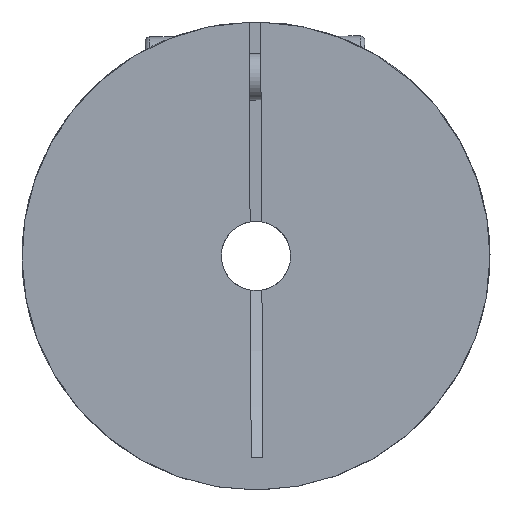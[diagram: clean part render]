
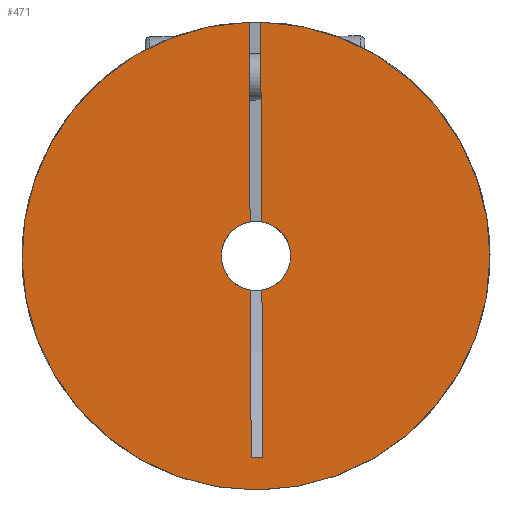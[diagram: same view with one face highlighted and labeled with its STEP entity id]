
A CAD part, left-side view. The second image highlights one B-rep face of the part: STEP entity #471.
In plain terms, the highlighted planar face has unit normal (-1, 0, 0) as drawn and (1, 0, 0) by its records, which use the part's own axes.
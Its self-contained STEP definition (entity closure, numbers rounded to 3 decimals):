
#471 = ADVANCED_FACE( '', ( #1034 ), #1035, .T. );
#1034 = FACE_OUTER_BOUND( '', #1745, .T. );
#1035 = PLANE( '', #1746 );
#1745 = EDGE_LOOP( '', ( #2780, #2781, #2782, #2783, #2784, #2785, #2786, #2787 ) );
#1746 = AXIS2_PLACEMENT_3D( '', #2788, #2789, #2790 );
#2780 = ORIENTED_EDGE( '', *, *, #3957, .F. );
#2781 = ORIENTED_EDGE( '', *, *, #3801, .F. );
#2782 = ORIENTED_EDGE( '', *, *, #3958, .T. );
#2783 = ORIENTED_EDGE( '', *, *, #3766, .T. );
#2784 = ORIENTED_EDGE( '', *, *, #3749, .T. );
#2785 = ORIENTED_EDGE( '', *, *, #3727, .T. );
#2786 = ORIENTED_EDGE( '', *, *, #3959, .F. );
#2787 = ORIENTED_EDGE( '', *, *, #3764, .T. );
#2788 = CARTESIAN_POINT( '', ( 21., 0., 20.25 ) );
#2789 = DIRECTION( '', ( 1., 0., 0. ) );
#2790 = DIRECTION( '', ( 0., 0., -1. ) );
#3727 = EDGE_CURVE( '', #4345, #4349, #4351, .F. );
#3749 = EDGE_CURVE( '', #4384, #4345, #4386, .T. );
#3764 = EDGE_CURVE( '', #4411, #4409, #4412, .T. );
#3766 = EDGE_CURVE( '', #4403, #4384, #4414, .T. );
#3801 = EDGE_CURVE( '', #4469, #4471, #4472, .T. );
#3957 = EDGE_CURVE( '', #4471, #4409, #4710, .T. );
#3958 = EDGE_CURVE( '', #4469, #4403, #4711, .T. );
#3959 = EDGE_CURVE( '', #4411, #4349, #4712, .T. );
#4345 = VERTEX_POINT( '', #5161 );
#4349 = VERTEX_POINT( '', #5168 );
#4351 = LINE( '', #5170, #5171 );
#4384 = VERTEX_POINT( '', #5208 );
#4386 = LINE( '', #5211, #5212 );
#4403 = VERTEX_POINT( '', #5232 );
#4409 = VERTEX_POINT( '', #5239 );
#4411 = VERTEX_POINT( '', #5242 );
#4412 = CIRCLE( '', #5243, 3. );
#4414 = CIRCLE( '', #5246, 3. );
#4469 = VERTEX_POINT( '', #5358 );
#4471 = VERTEX_POINT( '', #5361 );
#4472 = CIRCLE( '', #5362, 20.25 );
#4710 = LINE( '', #5836, #5837 );
#4711 = LINE( '', #5838, #5839 );
#4712 = LINE( '', #5840, #5841 );
#5161 = CARTESIAN_POINT( '', ( 21., -17.476, -0.5 ) );
#5168 = CARTESIAN_POINT( '', ( 21., -17.476, 0.5 ) );
#5170 = CARTESIAN_POINT( '', ( 21., -17.476, 0.5 ) );
#5171 = VECTOR( '', #6339, 1000. );
#5208 = CARTESIAN_POINT( '', ( 21., -2.958, -0.5 ) );
#5211 = CARTESIAN_POINT( '', ( 21., 0., -0.5 ) );
#5212 = VECTOR( '', #6372, 1000. );
#5232 = CARTESIAN_POINT( '', ( 21., 2.958, -0.5 ) );
#5239 = CARTESIAN_POINT( '', ( 21., 2.958, 0.5 ) );
#5242 = CARTESIAN_POINT( '', ( 21., -2.958, 0.5 ) );
#5243 = AXIS2_PLACEMENT_3D( '', #6396, #6397, #6398 );
#5246 = AXIS2_PLACEMENT_3D( '', #6400, #6401, #6402 );
#5358 = CARTESIAN_POINT( '', ( 21., 20.244, -0.5 ) );
#5361 = CARTESIAN_POINT( '', ( 21., 20.244, 0.5 ) );
#5362 = AXIS2_PLACEMENT_3D( '', #6451, #6452, #6453 );
#5836 = CARTESIAN_POINT( '', ( 21., 0., 0.5 ) );
#5837 = VECTOR( '', #6719, 1000. );
#5838 = CARTESIAN_POINT( '', ( 21., 0., -0.5 ) );
#5839 = VECTOR( '', #6720, 1000. );
#5840 = CARTESIAN_POINT( '', ( 21., 0., 0.5 ) );
#5841 = VECTOR( '', #6721, 1000. );
#6339 = DIRECTION( '', ( 0., 0., -1. ) );
#6372 = DIRECTION( '', ( 0., -1., 0. ) );
#6396 = CARTESIAN_POINT( '', ( 21., 0., 0. ) );
#6397 = DIRECTION( '', ( -1., 0., 0. ) );
#6398 = DIRECTION( '', ( 0., 0., 1. ) );
#6400 = CARTESIAN_POINT( '', ( 21., 0., 0. ) );
#6401 = DIRECTION( '', ( -1., 0., 0. ) );
#6402 = DIRECTION( '', ( 0., 0., 1. ) );
#6451 = CARTESIAN_POINT( '', ( 21., 0., 0. ) );
#6452 = DIRECTION( '', ( -1., 0., 0. ) );
#6453 = DIRECTION( '', ( 0., 0., 1. ) );
#6719 = DIRECTION( '', ( 0., -1., 0. ) );
#6720 = DIRECTION( '', ( 0., -1., 0. ) );
#6721 = DIRECTION( '', ( 0., -1., 0. ) );
